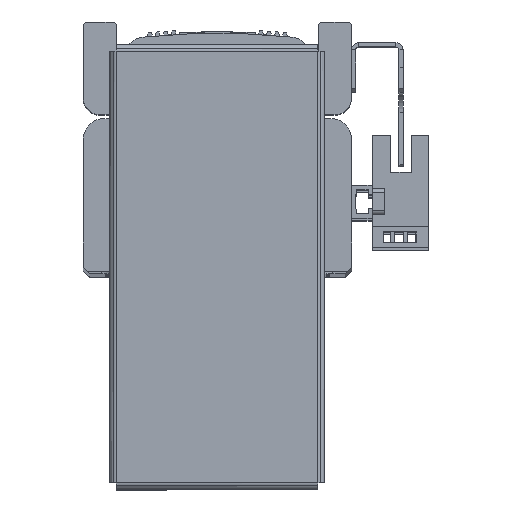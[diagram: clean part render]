
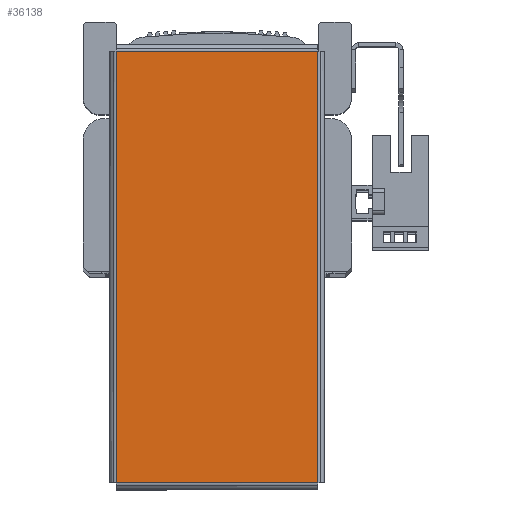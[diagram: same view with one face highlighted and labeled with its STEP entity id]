
A CAD part, top view. The second image highlights one B-rep face of the part: STEP entity #36138.
In plain terms, the highlighted planar face has unit normal (0, 0, 1) as drawn and (0, 0, -1) by its records, which use the part's own axes.
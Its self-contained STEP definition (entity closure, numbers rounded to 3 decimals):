
#82 = ORIENTED_EDGE ( 'NONE', *, *, #18529, .T. ) ;
#106 = ORIENTED_EDGE ( 'NONE', *, *, #38029, .T. ) ;
#113 = ORIENTED_EDGE ( 'NONE', *, *, #18536, .T. ) ;
#115 = ORIENTED_EDGE ( 'NONE', *, *, #38031, .T. ) ;
#10084 = AXIS2_PLACEMENT_3D ( 'NONE', #35727, #35820, #35764 ) ;
#12517 = CARTESIAN_POINT ( 'NONE',  ( -52.263, -24.363, -1. ) ) ;
#12557 = CARTESIAN_POINT ( 'NONE',  ( 52.263, 24.363, -1. ) ) ;
#12817 = CARTESIAN_POINT ( 'NONE',  ( -52.263, 24.363, -1. ) ) ;
#12880 = CARTESIAN_POINT ( 'NONE',  ( 52.263, -24.363, -1. ) ) ;
#14637 = LINE ( 'NONE', #15470, #14675 ) ;
#14655 = LINE ( 'NONE', #15496, #14697 ) ;
#14675 = VECTOR ( 'NONE', #15472, 1000. ) ;
#14697 = VECTOR ( 'NONE', #15475, 1000. ) ;
#15470 = CARTESIAN_POINT ( 'NONE',  ( 52.293, -24.363, -1. ) ) ;
#15472 = DIRECTION ( 'NONE',  ( -1., 0., 0. ) ) ;
#15475 = DIRECTION ( 'NONE',  ( 0., 1., 0. ) ) ;
#15496 = CARTESIAN_POINT ( 'NONE',  ( -52.263, -24.393, -1. ) ) ;
#16742 = LINE ( 'NONE', #30816, #16773 ) ;
#16772 = VECTOR ( 'NONE', #30808, 1000. ) ;
#16773 = VECTOR ( 'NONE', #30821, 1000. ) ;
#16782 = LINE ( 'NONE', #30820, #16772 ) ;
#18529 = EDGE_CURVE ( 'NONE', #36916, #36767, #16742, .T. ) ;
#18536 = EDGE_CURVE ( 'NONE', #36767, #36935, #16782, .T. ) ;
#29684 = EDGE_LOOP ( 'NONE', ( #113, #106, #115, #82 ) ) ;
#30808 = DIRECTION ( 'NONE',  ( 0., -1., 0. ) ) ;
#30816 = CARTESIAN_POINT ( 'NONE',  ( -52.293, 24.363, -1. ) ) ;
#30820 = CARTESIAN_POINT ( 'NONE',  ( 52.263, 24.393, -1. ) ) ;
#30821 = DIRECTION ( 'NONE',  ( 1., 0., 0. ) ) ;
#32638 = FACE_OUTER_BOUND ( 'NONE', #29684, .T. ) ;
#35727 = CARTESIAN_POINT ( 'NONE',  ( 0., 0., -1. ) ) ;
#35764 = DIRECTION ( 'NONE',  ( 1., 0., 0. ) ) ;
#35813 = PLANE ( 'NONE',  #10084 ) ;
#35820 = DIRECTION ( 'NONE',  ( 0., 0., 1. ) ) ;
#36138 = ADVANCED_FACE ( 'NONE', ( #32638 ), #35813, .F. ) ;
#36767 = VERTEX_POINT ( 'NONE', #12557 ) ;
#36786 = VERTEX_POINT ( 'NONE', #12517 ) ;
#36916 = VERTEX_POINT ( 'NONE', #12817 ) ;
#36935 = VERTEX_POINT ( 'NONE', #12880 ) ;
#38029 = EDGE_CURVE ( 'NONE', #36935, #36786, #14637, .T. ) ;
#38031 = EDGE_CURVE ( 'NONE', #36786, #36916, #14655, .T. ) ;
